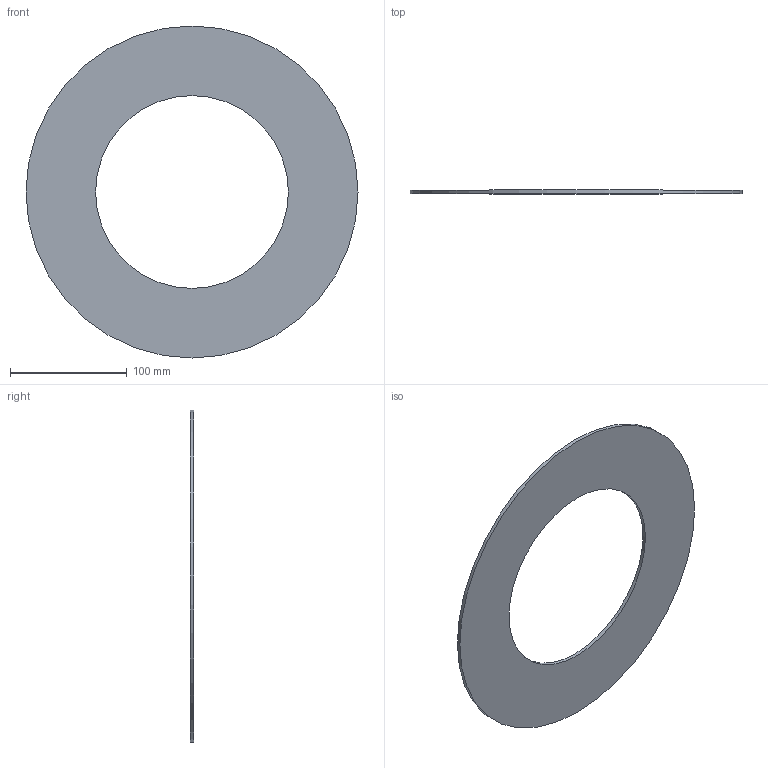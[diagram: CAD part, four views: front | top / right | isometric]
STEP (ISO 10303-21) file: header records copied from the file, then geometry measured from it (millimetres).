
FILE_DESCRIPTION(/* description */ ('Unknown'),/* implementation_level */ '2;1');
FILE_NAME(/* name */ 'GUA.225H',/* time_stamp */ '2021-04-01T15:05:33+02:00',/* author */ ('Unknown'),/* organization */ ('Unknown'),/* preprocessor_version */ 'ST-DEVELOPER v16.7',/* originating_system */ 'Solid Edge',/* authorisation */ 'Unknown');
FILE_SCHEMA (('AUTOMOTIVE_DESIGN {1 0 10303 214 3 1 1}'));
Length unit declared in the file: millimetre
Products named in the file (1): GUA.225H
Bounding box: 284 x 3 x 284 mm (x, y, z)
Volume: 125893.8 mm3; surface area: 88160.9 mm2
Topology: 1 solids, 1 shells, 4 faces, 6 edges, 4 vertices
Faces by surface type: cylinder 2, plane 2
Full cylindrical faces by diameter (mm): 165 x1, 284 x1
Entity records: 118 total; most frequent: DIRECTION 18, CARTESIAN_POINT 13, AXIS2_PLACEMENT_3D 9, ORIENTED_EDGE 8, EDGE_LOOP 8, FACE_BOUND 8, EDGE_CURVE 4, VERTEX_POINT 4
